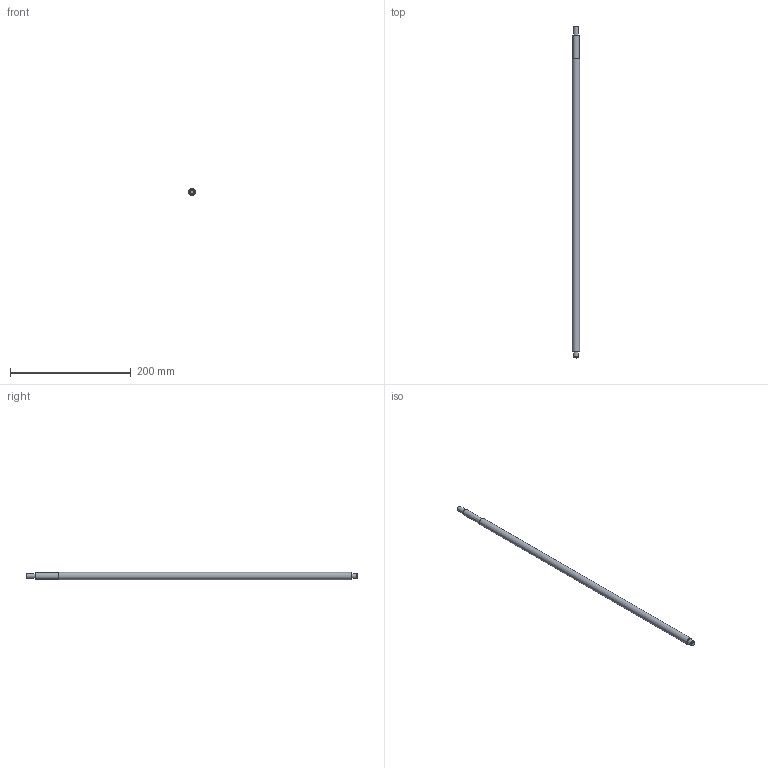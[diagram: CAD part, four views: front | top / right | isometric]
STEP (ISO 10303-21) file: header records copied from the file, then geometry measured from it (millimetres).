
FILE_DESCRIPTION(/* description */ (''),/* implementation_level */ '2;1');
FILE_NAME(/* name */ 'C:\Users\David\Desktop\stepFiles\Profilfuehrung\KUS1204x550.stp',/* time_stamp */ '2018-06-24T15:05:13+02:00',/* author */ ('David'),/* organization */ (''),/* preprocessor_version */ 'ST-DEVELOPER v17',/* originating_system */ 'Autodesk Inventor 2019',/* authorisation */ '');
FILE_SCHEMA (('AUTOMOTIVE_DESIGN { 1 0 10303 214 3 1 1 }'));
Length unit declared in the file: millimetre
Products named in the file (1): SFU1204xvariabel
Bounding box: 12 x 550 x 12 mm (x, y, z)
Volume: 59274.6 mm3; surface area: 20394.8 mm2
Topology: 1 solids, 1 shells, 15 faces, 34 edges, 26 vertices
Faces by surface type: plane 7, cylinder 6, cone 2
Full cylindrical faces by diameter (mm): 7.6 x1, 8 x3, 10 x1, 12 x1
Entity records: 493 total; most frequent: DIRECTION 92, CARTESIAN_POINT 76, ORIENTED_EDGE 68, AXIS2_PLACEMENT_3D 42, EDGE_CURVE 34, CIRCLE 26, VERTEX_POINT 26, EDGE_LOOP 20
